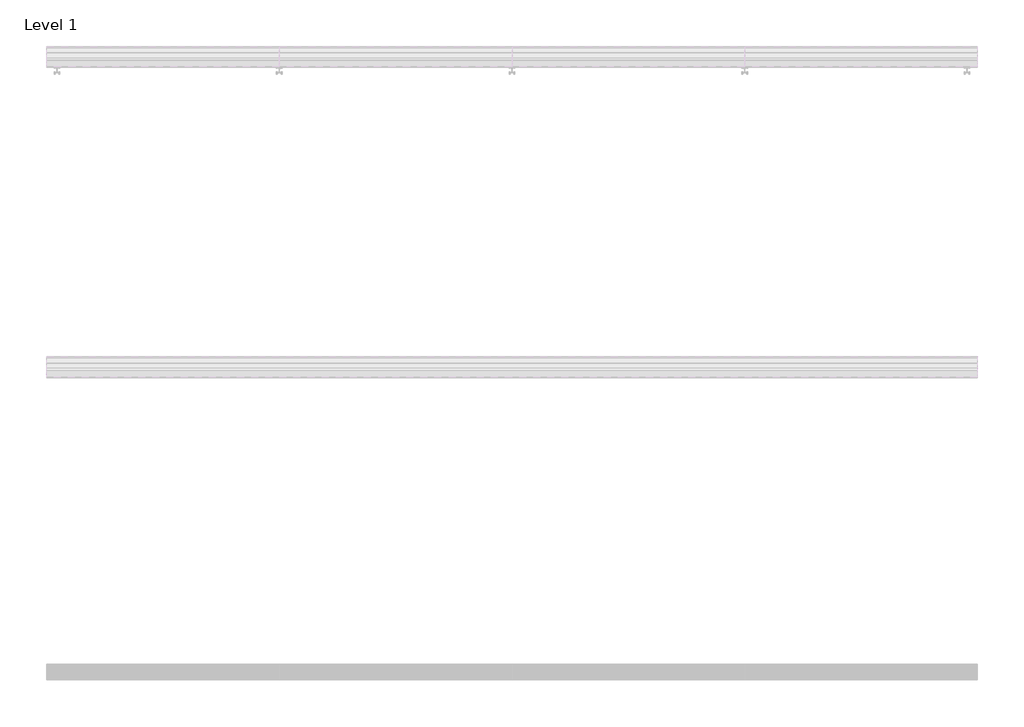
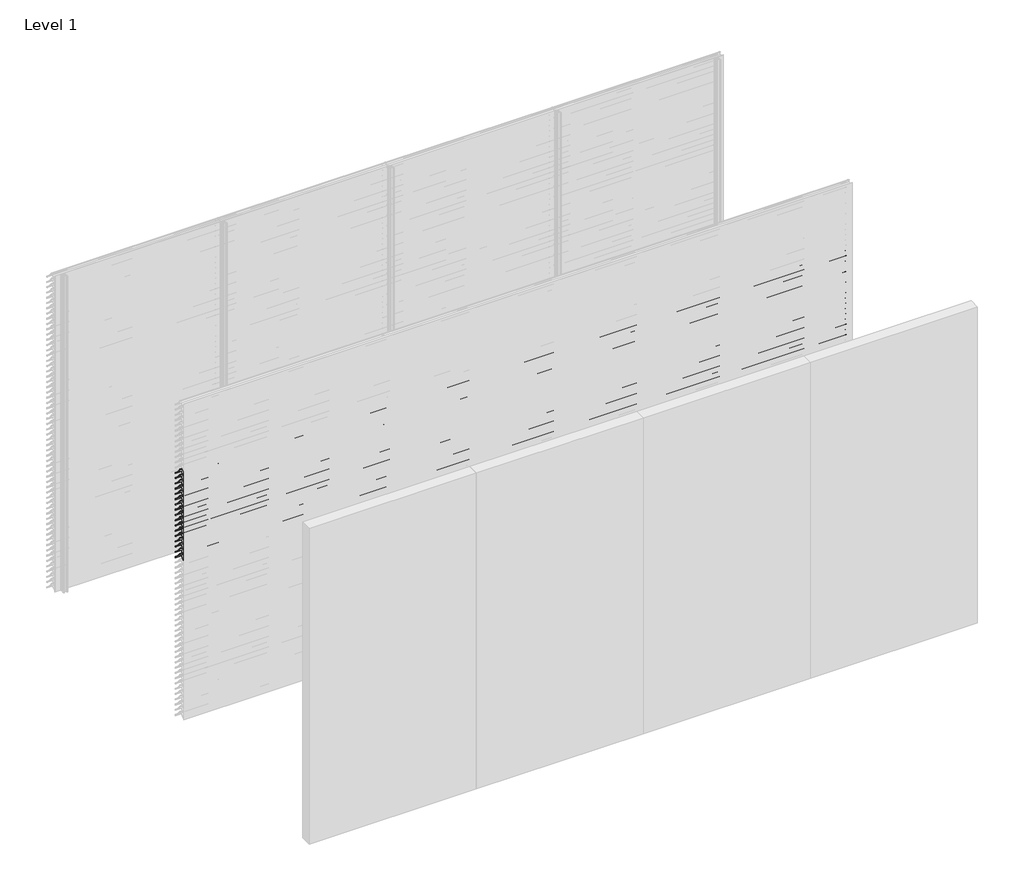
# One storey, part 38 of 173: 17 proxies.
"""IFC4 building model written with IfcOpenShell, lengths in millimetres."""

from ifc_helpers import new_model, si_unit, point, frame, frame_2d, origin, place, context, project, spatial, polyline, circle_curve, trimmed, segment, composite_curve, outline, extrude, element, save

model = new_model("IFC4")

# Units and contexts
model_context = context("Model", 3, world=origin())
ifc_project = project(units=[si_unit("LENGTHUNIT", "METRE", prefix="MILLI")], contexts=[model_context])

# Site, building, storey
site = spatial("IfcSite", under=ifc_project)
building = spatial("IfcBuilding", under=site)
storey = spatial("IfcBuildingStorey", under=building, Name="Level 1", Elevation=0.0)

# Proxies
placement = place(None, origin())
element("IfcBuildingElementProxy", 1, Name="Wall Sweeps", at=placement, inside=storey, context=model_context, shape_type="SweptSolid", body=[
    extrude(outline(composite_curve([segment(polyline([(-43998.0, 2309.1474905), (-43998.0, 2311.6227417)]), True, "CONTINUOUS"), segment(trimmed(circle_curve(frame_2d((-43951.2682172, 2266.2200208)), 65.1557103), [point((-43998.0, 2311.6227417))], [point((-43954.4014323, 2331.3003524))], False, "CARTESIAN"), True, "CONTINUOUS"), segment(polyline([(-43954.4014323, 2331.3003524), (-43934.8315836, 2331.3003524)]), True, "CONTINUOUS"), segment(trimmed(circle_curve(frame_2d((-43732.7329489, 2478.5533172)), 250.0545817), [point((-43934.8315836, 2331.3003524))], [point((-43941.4452143, 2340.8344583))], False, "CARTESIAN"), True, "CONTINUOUS"), segment(trimmed(circle_curve(frame_2d((-43953.2981792, 2335.1737835)), 13.1352966), [point((-43941.4452143, 2340.8344583))], [point((-43953.8171475, 2348.298824))], True, "CARTESIAN"), True, "CONTINUOUS"), segment(polyline([(-43953.8171475, 2348.298824), (-43953.8171475, 2350.0)]), True, "CONTINUOUS"), segment(trimmed(circle_curve(frame_2d((-43953.2981792, 2335.1737835)), 14.8352966), [point((-43953.8171475, 2350.0))], [point((-43939.9637661, 2341.6760487))], False, "CARTESIAN"), True, "CONTINUOUS"), segment(trimmed(circle_curve(frame_2d((-43732.7329489, 2478.5533172)), 248.3545817), [point((-43939.9637661, 2341.6760487))], [point((-43873.8787895, 2274.2059416))], True, "CARTESIAN"), True, "CONTINUOUS"), segment(trimmed(circle_curve(frame_2d((-43883.8147537, 2261.6649442)), 16.0), [point((-43873.8787895, 2274.2059416))], [point((-43867.8648347, 2260.4))], False, "CARTESIAN"), True, "CONTINUOUS"), segment(polyline([(-43867.8648347, 2260.4), (-43869.6712069, 2260.4)]), True, "CONTINUOUS"), segment(trimmed(circle_curve(frame_2d((-43883.8147537, 2261.6649442)), 14.2), [point((-43869.6712069, 2260.4))], [point((-43874.9518628, 2272.7594998))], True, "CARTESIAN"), True, "CONTINUOUS"), segment(trimmed(circle_curve(frame_2d((-43732.7329489, 2478.5533172)), 250.1545817), [point((-43874.9518628, 2272.7594998))], [point((-43933.7064024, 2329.6003524))], False, "CARTESIAN"), True, "CONTINUOUS"), segment(polyline([(-43933.7064024, 2329.6003524), (-43954.3602632, 2329.6003524)]), True, "CONTINUOUS"), segment(trimmed(circle_curve(frame_2d((-43951.2682172, 2266.2200208)), 63.4557103), [point((-43954.3602632, 2329.6003524))], [point((-43998.0, 2309.1474905))], True, "CARTESIAN"), True, "CONTINUOUS")], self_intersect=False)), frame((0.0, 0.0, 0.0), z_axis=(1.0, 0.0, 0.0), x_axis=(0.0, 1.0, 0.0)), (0.0, 0.0, 1.0), 6000.0),
])
element("IfcBuildingElementProxy", 2, Name="Wall Sweeps", at=placement, inside=storey, context=model_context, shape_type="SweptSolid", body=[
    extrude(outline(composite_curve([segment(polyline([(-43998.0, 2259.1474905), (-43998.0, 2261.6227417)]), True, "CONTINUOUS"), segment(trimmed(circle_curve(frame_2d((-43951.2682172, 2216.2200208)), 65.1557103), [point((-43998.0, 2261.6227417))], [point((-43954.4014323, 2281.3003524))], False, "CARTESIAN"), True, "CONTINUOUS"), segment(polyline([(-43954.4014323, 2281.3003524), (-43934.8315836, 2281.3003524)]), True, "CONTINUOUS"), segment(trimmed(circle_curve(frame_2d((-43732.7329489, 2428.5533172)), 250.0545817), [point((-43934.8315836, 2281.3003524))], [point((-43941.4452143, 2290.8344583))], False, "CARTESIAN"), True, "CONTINUOUS"), segment(trimmed(circle_curve(frame_2d((-43953.2981792, 2285.1737835)), 13.1352966), [point((-43941.4452143, 2290.8344583))], [point((-43953.8171475, 2298.298824))], True, "CARTESIAN"), True, "CONTINUOUS"), segment(polyline([(-43953.8171475, 2298.298824), (-43953.8171475, 2300.0)]), True, "CONTINUOUS"), segment(trimmed(circle_curve(frame_2d((-43953.2981792, 2285.1737835)), 14.8352966), [point((-43953.8171475, 2300.0))], [point((-43939.9637661, 2291.6760487))], False, "CARTESIAN"), True, "CONTINUOUS"), segment(trimmed(circle_curve(frame_2d((-43732.7329489, 2428.5533172)), 248.3545817), [point((-43939.9637661, 2291.6760487))], [point((-43873.8787895, 2224.2059416))], True, "CARTESIAN"), True, "CONTINUOUS"), segment(trimmed(circle_curve(frame_2d((-43883.8147537, 2211.6649442)), 16.0), [point((-43873.8787895, 2224.2059416))], [point((-43867.8648347, 2210.4))], False, "CARTESIAN"), True, "CONTINUOUS"), segment(polyline([(-43867.8648347, 2210.4), (-43869.6712069, 2210.4)]), True, "CONTINUOUS"), segment(trimmed(circle_curve(frame_2d((-43883.8147537, 2211.6649442)), 14.2), [point((-43869.6712069, 2210.4))], [point((-43874.9518628, 2222.7594998))], True, "CARTESIAN"), True, "CONTINUOUS"), segment(trimmed(circle_curve(frame_2d((-43732.7329489, 2428.5533172)), 250.1545817), [point((-43874.9518628, 2222.7594998))], [point((-43933.7064024, 2279.6003524))], False, "CARTESIAN"), True, "CONTINUOUS"), segment(polyline([(-43933.7064024, 2279.6003524), (-43954.3602632, 2279.6003524)]), True, "CONTINUOUS"), segment(trimmed(circle_curve(frame_2d((-43951.2682172, 2216.2200208)), 63.4557103), [point((-43954.3602632, 2279.6003524))], [point((-43998.0, 2259.1474905))], True, "CARTESIAN"), True, "CONTINUOUS")], self_intersect=False)), frame((0.0, 0.0, 0.0), z_axis=(1.0, 0.0, 0.0), x_axis=(0.0, 1.0, 0.0)), (0.0, 0.0, 1.0), 6000.0),
])
element("IfcBuildingElementProxy", 3, Name="Wall Sweeps", at=placement, inside=storey, context=model_context, shape_type="SweptSolid", body=[
    extrude(outline(composite_curve([segment(polyline([(-43998.0, 2209.1474905), (-43998.0, 2211.6227417)]), True, "CONTINUOUS"), segment(trimmed(circle_curve(frame_2d((-43951.2682172, 2166.2200208)), 65.1557103), [point((-43998.0, 2211.6227417))], [point((-43954.4014323, 2231.3003524))], False, "CARTESIAN"), True, "CONTINUOUS"), segment(polyline([(-43954.4014323, 2231.3003524), (-43934.8315836, 2231.3003524)]), True, "CONTINUOUS"), segment(trimmed(circle_curve(frame_2d((-43732.7329489, 2378.5533172)), 250.0545817), [point((-43934.8315836, 2231.3003524))], [point((-43941.4452143, 2240.8344583))], False, "CARTESIAN"), True, "CONTINUOUS"), segment(trimmed(circle_curve(frame_2d((-43953.2981792, 2235.1737835)), 13.1352966), [point((-43941.4452143, 2240.8344583))], [point((-43953.8171475, 2248.298824))], True, "CARTESIAN"), True, "CONTINUOUS"), segment(polyline([(-43953.8171475, 2248.298824), (-43953.8171475, 2250.0)]), True, "CONTINUOUS"), segment(trimmed(circle_curve(frame_2d((-43953.2981792, 2235.1737835)), 14.8352966), [point((-43953.8171475, 2250.0))], [point((-43939.9637661, 2241.6760487))], False, "CARTESIAN"), True, "CONTINUOUS"), segment(trimmed(circle_curve(frame_2d((-43732.7329489, 2378.5533172)), 248.3545817), [point((-43939.9637661, 2241.6760487))], [point((-43873.8787895, 2174.2059416))], True, "CARTESIAN"), True, "CONTINUOUS"), segment(trimmed(circle_curve(frame_2d((-43883.8147537, 2161.6649442)), 16.0), [point((-43873.8787895, 2174.2059416))], [point((-43867.8648347, 2160.4))], False, "CARTESIAN"), True, "CONTINUOUS"), segment(polyline([(-43867.8648347, 2160.4), (-43869.6712069, 2160.4)]), True, "CONTINUOUS"), segment(trimmed(circle_curve(frame_2d((-43883.8147537, 2161.6649442)), 14.2), [point((-43869.6712069, 2160.4))], [point((-43874.9518628, 2172.7594998))], True, "CARTESIAN"), True, "CONTINUOUS"), segment(trimmed(circle_curve(frame_2d((-43732.7329489, 2378.5533172)), 250.1545817), [point((-43874.9518628, 2172.7594998))], [point((-43933.7064024, 2229.6003524))], False, "CARTESIAN"), True, "CONTINUOUS"), segment(polyline([(-43933.7064024, 2229.6003524), (-43954.3602632, 2229.6003524)]), True, "CONTINUOUS"), segment(trimmed(circle_curve(frame_2d((-43951.2682172, 2166.2200208)), 63.4557103), [point((-43954.3602632, 2229.6003524))], [point((-43998.0, 2209.1474905))], True, "CARTESIAN"), True, "CONTINUOUS")], self_intersect=False)), frame((0.0, 0.0, 0.0), z_axis=(1.0, 0.0, 0.0), x_axis=(0.0, 1.0, 0.0)), (0.0, 0.0, 1.0), 6000.0),
])
element("IfcBuildingElementProxy", 4, Name="Wall Sweeps", at=placement, inside=storey, context=model_context, shape_type="SweptSolid", body=[
    extrude(outline(composite_curve([segment(polyline([(-43998.0, 2159.1474905), (-43998.0, 2161.6227417)]), True, "CONTINUOUS"), segment(trimmed(circle_curve(frame_2d((-43951.2682172, 2116.2200208)), 65.1557103), [point((-43998.0, 2161.6227417))], [point((-43954.4014323, 2181.3003524))], False, "CARTESIAN"), True, "CONTINUOUS"), segment(polyline([(-43954.4014323, 2181.3003524), (-43934.8315836, 2181.3003524)]), True, "CONTINUOUS"), segment(trimmed(circle_curve(frame_2d((-43732.7329489, 2328.5533172)), 250.0545817), [point((-43934.8315836, 2181.3003524))], [point((-43941.4452143, 2190.8344583))], False, "CARTESIAN"), True, "CONTINUOUS"), segment(trimmed(circle_curve(frame_2d((-43953.2981792, 2185.1737835)), 13.1352966), [point((-43941.4452143, 2190.8344583))], [point((-43953.8171475, 2198.298824))], True, "CARTESIAN"), True, "CONTINUOUS"), segment(polyline([(-43953.8171475, 2198.298824), (-43953.8171475, 2200.0)]), True, "CONTINUOUS"), segment(trimmed(circle_curve(frame_2d((-43953.2981792, 2185.1737835)), 14.8352966), [point((-43953.8171475, 2200.0))], [point((-43939.9637661, 2191.6760487))], False, "CARTESIAN"), True, "CONTINUOUS"), segment(trimmed(circle_curve(frame_2d((-43732.7329489, 2328.5533172)), 248.3545817), [point((-43939.9637661, 2191.6760487))], [point((-43873.8787895, 2124.2059416))], True, "CARTESIAN"), True, "CONTINUOUS"), segment(trimmed(circle_curve(frame_2d((-43883.8147537, 2111.6649442)), 16.0), [point((-43873.8787895, 2124.2059416))], [point((-43867.8648347, 2110.4))], False, "CARTESIAN"), True, "CONTINUOUS"), segment(polyline([(-43867.8648347, 2110.4), (-43869.6712069, 2110.4)]), True, "CONTINUOUS"), segment(trimmed(circle_curve(frame_2d((-43883.8147537, 2111.6649442)), 14.2), [point((-43869.6712069, 2110.4))], [point((-43874.9518628, 2122.7594998))], True, "CARTESIAN"), True, "CONTINUOUS"), segment(trimmed(circle_curve(frame_2d((-43732.7329489, 2328.5533172)), 250.1545817), [point((-43874.9518628, 2122.7594998))], [point((-43933.7064024, 2179.6003524))], False, "CARTESIAN"), True, "CONTINUOUS"), segment(polyline([(-43933.7064024, 2179.6003524), (-43954.3602632, 2179.6003524)]), True, "CONTINUOUS"), segment(trimmed(circle_curve(frame_2d((-43951.2682172, 2116.2200208)), 63.4557103), [point((-43954.3602632, 2179.6003524))], [point((-43998.0, 2159.1474905))], True, "CARTESIAN"), True, "CONTINUOUS")], self_intersect=False)), frame((0.0, 0.0, 0.0), z_axis=(1.0, 0.0, 0.0), x_axis=(0.0, 1.0, 0.0)), (0.0, 0.0, 1.0), 6000.0),
])
element("IfcBuildingElementProxy", 5, Name="Wall Sweeps", at=placement, inside=storey, context=model_context, shape_type="SweptSolid", body=[
    extrude(outline(composite_curve([segment(polyline([(-43998.0, 2109.1474905), (-43998.0, 2111.6227417)]), True, "CONTINUOUS"), segment(trimmed(circle_curve(frame_2d((-43951.2682172, 2066.2200208)), 65.1557103), [point((-43998.0, 2111.6227417))], [point((-43954.4014323, 2131.3003524))], False, "CARTESIAN"), True, "CONTINUOUS"), segment(polyline([(-43954.4014323, 2131.3003524), (-43934.8315836, 2131.3003524)]), True, "CONTINUOUS"), segment(trimmed(circle_curve(frame_2d((-43732.7329489, 2278.5533172)), 250.0545817), [point((-43934.8315836, 2131.3003524))], [point((-43941.4452143, 2140.8344583))], False, "CARTESIAN"), True, "CONTINUOUS"), segment(trimmed(circle_curve(frame_2d((-43953.2981792, 2135.1737835)), 13.1352966), [point((-43941.4452143, 2140.8344583))], [point((-43953.8171475, 2148.298824))], True, "CARTESIAN"), True, "CONTINUOUS"), segment(polyline([(-43953.8171475, 2148.298824), (-43953.8171475, 2150.0)]), True, "CONTINUOUS"), segment(trimmed(circle_curve(frame_2d((-43953.2981792, 2135.1737835)), 14.8352966), [point((-43953.8171475, 2150.0))], [point((-43939.9637661, 2141.6760487))], False, "CARTESIAN"), True, "CONTINUOUS"), segment(trimmed(circle_curve(frame_2d((-43732.7329489, 2278.5533172)), 248.3545817), [point((-43939.9637661, 2141.6760487))], [point((-43873.8787895, 2074.2059416))], True, "CARTESIAN"), True, "CONTINUOUS"), segment(trimmed(circle_curve(frame_2d((-43883.8147537, 2061.6649442)), 16.0), [point((-43873.8787895, 2074.2059416))], [point((-43867.8648347, 2060.4))], False, "CARTESIAN"), True, "CONTINUOUS"), segment(polyline([(-43867.8648347, 2060.4), (-43869.6712069, 2060.4)]), True, "CONTINUOUS"), segment(trimmed(circle_curve(frame_2d((-43883.8147537, 2061.6649442)), 14.2), [point((-43869.6712069, 2060.4))], [point((-43874.9518628, 2072.7594998))], True, "CARTESIAN"), True, "CONTINUOUS"), segment(trimmed(circle_curve(frame_2d((-43732.7329489, 2278.5533172)), 250.1545817), [point((-43874.9518628, 2072.7594998))], [point((-43933.7064024, 2129.6003524))], False, "CARTESIAN"), True, "CONTINUOUS"), segment(polyline([(-43933.7064024, 2129.6003524), (-43954.3602632, 2129.6003524)]), True, "CONTINUOUS"), segment(trimmed(circle_curve(frame_2d((-43951.2682172, 2066.2200208)), 63.4557103), [point((-43954.3602632, 2129.6003524))], [point((-43998.0, 2109.1474905))], True, "CARTESIAN"), True, "CONTINUOUS")], self_intersect=False)), frame((0.0, 0.0, 0.0), z_axis=(1.0, 0.0, 0.0), x_axis=(0.0, 1.0, 0.0)), (0.0, 0.0, 1.0), 6000.0),
])
element("IfcBuildingElementProxy", 6, Name="Wall Sweeps", at=placement, inside=storey, context=model_context, shape_type="SweptSolid", body=[
    extrude(outline(composite_curve([segment(polyline([(-43998.0, 2059.1474905), (-43998.0, 2061.6227417)]), True, "CONTINUOUS"), segment(trimmed(circle_curve(frame_2d((-43951.2682172, 2016.2200208)), 65.1557103), [point((-43998.0, 2061.6227417))], [point((-43954.4014323, 2081.3003524))], False, "CARTESIAN"), True, "CONTINUOUS"), segment(polyline([(-43954.4014323, 2081.3003524), (-43934.8315836, 2081.3003524)]), True, "CONTINUOUS"), segment(trimmed(circle_curve(frame_2d((-43732.7329489, 2228.5533172)), 250.0545817), [point((-43934.8315836, 2081.3003524))], [point((-43941.4452143, 2090.8344583))], False, "CARTESIAN"), True, "CONTINUOUS"), segment(trimmed(circle_curve(frame_2d((-43953.2981792, 2085.1737835)), 13.1352966), [point((-43941.4452143, 2090.8344583))], [point((-43953.8171475, 2098.298824))], True, "CARTESIAN"), True, "CONTINUOUS"), segment(polyline([(-43953.8171475, 2098.298824), (-43953.8171475, 2100.0)]), True, "CONTINUOUS"), segment(trimmed(circle_curve(frame_2d((-43953.2981792, 2085.1737835)), 14.8352966), [point((-43953.8171475, 2100.0))], [point((-43939.9637661, 2091.6760487))], False, "CARTESIAN"), True, "CONTINUOUS"), segment(trimmed(circle_curve(frame_2d((-43732.7329489, 2228.5533172)), 248.3545817), [point((-43939.9637661, 2091.6760487))], [point((-43873.8787895, 2024.2059416))], True, "CARTESIAN"), True, "CONTINUOUS"), segment(trimmed(circle_curve(frame_2d((-43883.8147537, 2011.6649442)), 16.0), [point((-43873.8787895, 2024.2059416))], [point((-43867.8648347, 2010.4))], False, "CARTESIAN"), True, "CONTINUOUS"), segment(polyline([(-43867.8648347, 2010.4), (-43869.6712069, 2010.4)]), True, "CONTINUOUS"), segment(trimmed(circle_curve(frame_2d((-43883.8147537, 2011.6649442)), 14.2), [point((-43869.6712069, 2010.4))], [point((-43874.9518628, 2022.7594998))], True, "CARTESIAN"), True, "CONTINUOUS"), segment(trimmed(circle_curve(frame_2d((-43732.7329489, 2228.5533172)), 250.1545817), [point((-43874.9518628, 2022.7594998))], [point((-43933.7064024, 2079.6003524))], False, "CARTESIAN"), True, "CONTINUOUS"), segment(polyline([(-43933.7064024, 2079.6003524), (-43954.3602632, 2079.6003524)]), True, "CONTINUOUS"), segment(trimmed(circle_curve(frame_2d((-43951.2682172, 2016.2200208)), 63.4557103), [point((-43954.3602632, 2079.6003524))], [point((-43998.0, 2059.1474905))], True, "CARTESIAN"), True, "CONTINUOUS")], self_intersect=False)), frame((0.0, 0.0, 0.0), z_axis=(1.0, 0.0, 0.0), x_axis=(0.0, 1.0, 0.0)), (0.0, 0.0, 1.0), 6000.0),
])
element("IfcBuildingElementProxy", 7, Name="Wall Sweeps", at=placement, inside=storey, context=model_context, shape_type="SweptSolid", body=[
    extrude(outline(composite_curve([segment(polyline([(-43998.0, 2009.1474905), (-43998.0, 2011.6227417)]), True, "CONTINUOUS"), segment(trimmed(circle_curve(frame_2d((-43951.2682172, 1966.2200208)), 65.1557103), [point((-43998.0, 2011.6227417))], [point((-43954.4014323, 2031.3003524))], False, "CARTESIAN"), True, "CONTINUOUS"), segment(polyline([(-43954.4014323, 2031.3003524), (-43934.8315836, 2031.3003524)]), True, "CONTINUOUS"), segment(trimmed(circle_curve(frame_2d((-43732.7329489, 2178.5533172)), 250.0545817), [point((-43934.8315836, 2031.3003524))], [point((-43941.4452143, 2040.8344583))], False, "CARTESIAN"), True, "CONTINUOUS"), segment(trimmed(circle_curve(frame_2d((-43953.2981792, 2035.1737835)), 13.1352966), [point((-43941.4452143, 2040.8344583))], [point((-43953.8171475, 2048.298824))], True, "CARTESIAN"), True, "CONTINUOUS"), segment(polyline([(-43953.8171475, 2048.298824), (-43953.8171475, 2050.0)]), True, "CONTINUOUS"), segment(trimmed(circle_curve(frame_2d((-43953.2981792, 2035.1737835)), 14.8352966), [point((-43953.8171475, 2050.0))], [point((-43939.9637661, 2041.6760487))], False, "CARTESIAN"), True, "CONTINUOUS"), segment(trimmed(circle_curve(frame_2d((-43732.7329489, 2178.5533172)), 248.3545817), [point((-43939.9637661, 2041.6760487))], [point((-43873.8787895, 1974.2059416))], True, "CARTESIAN"), True, "CONTINUOUS"), segment(trimmed(circle_curve(frame_2d((-43883.8147537, 1961.6649442)), 16.0), [point((-43873.8787895, 1974.2059416))], [point((-43867.8648347, 1960.4))], False, "CARTESIAN"), True, "CONTINUOUS"), segment(polyline([(-43867.8648347, 1960.4), (-43869.6712069, 1960.4)]), True, "CONTINUOUS"), segment(trimmed(circle_curve(frame_2d((-43883.8147537, 1961.6649442)), 14.2), [point((-43869.6712069, 1960.4))], [point((-43874.9518628, 1972.7594998))], True, "CARTESIAN"), True, "CONTINUOUS"), segment(trimmed(circle_curve(frame_2d((-43732.7329489, 2178.5533172)), 250.1545817), [point((-43874.9518628, 1972.7594998))], [point((-43933.7064024, 2029.6003524))], False, "CARTESIAN"), True, "CONTINUOUS"), segment(polyline([(-43933.7064024, 2029.6003524), (-43954.3602632, 2029.6003524)]), True, "CONTINUOUS"), segment(trimmed(circle_curve(frame_2d((-43951.2682172, 1966.2200208)), 63.4557103), [point((-43954.3602632, 2029.6003524))], [point((-43998.0, 2009.1474905))], True, "CARTESIAN"), True, "CONTINUOUS")], self_intersect=False)), frame((0.0, 0.0, 0.0), z_axis=(1.0, 0.0, 0.0), x_axis=(0.0, 1.0, 0.0)), (0.0, 0.0, 1.0), 6000.0),
])
element("IfcBuildingElementProxy", 8, Name="Wall Sweeps", at=placement, inside=storey, context=model_context, shape_type="SweptSolid", body=[
    extrude(outline(composite_curve([segment(polyline([(-43998.0, 1959.1474905), (-43998.0, 1961.6227417)]), True, "CONTINUOUS"), segment(trimmed(circle_curve(frame_2d((-43951.2682172, 1916.2200208)), 65.1557103), [point((-43998.0, 1961.6227417))], [point((-43954.4014323, 1981.3003524))], False, "CARTESIAN"), True, "CONTINUOUS"), segment(polyline([(-43954.4014323, 1981.3003524), (-43934.8315836, 1981.3003524)]), True, "CONTINUOUS"), segment(trimmed(circle_curve(frame_2d((-43732.7329489, 2128.5533172)), 250.0545817), [point((-43934.8315836, 1981.3003524))], [point((-43941.4452143, 1990.8344583))], False, "CARTESIAN"), True, "CONTINUOUS"), segment(trimmed(circle_curve(frame_2d((-43953.2981792, 1985.1737835)), 13.1352966), [point((-43941.4452143, 1990.8344583))], [point((-43953.8171475, 1998.298824))], True, "CARTESIAN"), True, "CONTINUOUS"), segment(polyline([(-43953.8171475, 1998.298824), (-43953.8171475, 2000.0)]), True, "CONTINUOUS"), segment(trimmed(circle_curve(frame_2d((-43953.2981792, 1985.1737835)), 14.8352966), [point((-43953.8171475, 2000.0))], [point((-43939.9637661, 1991.6760487))], False, "CARTESIAN"), True, "CONTINUOUS"), segment(trimmed(circle_curve(frame_2d((-43732.7329489, 2128.5533172)), 248.3545817), [point((-43939.9637661, 1991.6760487))], [point((-43873.8787895, 1924.2059416))], True, "CARTESIAN"), True, "CONTINUOUS"), segment(trimmed(circle_curve(frame_2d((-43883.8147537, 1911.6649442)), 16.0), [point((-43873.8787895, 1924.2059416))], [point((-43867.8648347, 1910.4))], False, "CARTESIAN"), True, "CONTINUOUS"), segment(polyline([(-43867.8648347, 1910.4), (-43869.6712069, 1910.4)]), True, "CONTINUOUS"), segment(trimmed(circle_curve(frame_2d((-43883.8147537, 1911.6649442)), 14.2), [point((-43869.6712069, 1910.4))], [point((-43874.9518628, 1922.7594998))], True, "CARTESIAN"), True, "CONTINUOUS"), segment(trimmed(circle_curve(frame_2d((-43732.7329489, 2128.5533172)), 250.1545817), [point((-43874.9518628, 1922.7594998))], [point((-43933.7064024, 1979.6003524))], False, "CARTESIAN"), True, "CONTINUOUS"), segment(polyline([(-43933.7064024, 1979.6003524), (-43954.3602632, 1979.6003524)]), True, "CONTINUOUS"), segment(trimmed(circle_curve(frame_2d((-43951.2682172, 1916.2200208)), 63.4557103), [point((-43954.3602632, 1979.6003524))], [point((-43998.0, 1959.1474905))], True, "CARTESIAN"), True, "CONTINUOUS")], self_intersect=False)), frame((0.0, 0.0, 0.0), z_axis=(1.0, 0.0, 0.0), x_axis=(0.0, 1.0, 0.0)), (0.0, 0.0, 1.0), 6000.0),
])
element("IfcBuildingElementProxy", 9, Name="Wall Sweeps", at=placement, inside=storey, context=model_context, shape_type="SweptSolid", body=[
    extrude(outline(composite_curve([segment(polyline([(-43998.0, 1909.1474905), (-43998.0, 1911.6227417)]), True, "CONTINUOUS"), segment(trimmed(circle_curve(frame_2d((-43951.2682172, 1866.2200208)), 65.1557103), [point((-43998.0, 1911.6227417))], [point((-43954.4014323, 1931.3003524))], False, "CARTESIAN"), True, "CONTINUOUS"), segment(polyline([(-43954.4014323, 1931.3003524), (-43934.8315836, 1931.3003524)]), True, "CONTINUOUS"), segment(trimmed(circle_curve(frame_2d((-43732.7329489, 2078.5533172)), 250.0545817), [point((-43934.8315836, 1931.3003524))], [point((-43941.4452143, 1940.8344583))], False, "CARTESIAN"), True, "CONTINUOUS"), segment(trimmed(circle_curve(frame_2d((-43953.2981792, 1935.1737835)), 13.1352966), [point((-43941.4452143, 1940.8344583))], [point((-43953.8171475, 1948.298824))], True, "CARTESIAN"), True, "CONTINUOUS"), segment(polyline([(-43953.8171475, 1948.298824), (-43953.8171475, 1950.0)]), True, "CONTINUOUS"), segment(trimmed(circle_curve(frame_2d((-43953.2981792, 1935.1737835)), 14.8352966), [point((-43953.8171475, 1950.0))], [point((-43939.9637661, 1941.6760487))], False, "CARTESIAN"), True, "CONTINUOUS"), segment(trimmed(circle_curve(frame_2d((-43732.7329489, 2078.5533172)), 248.3545817), [point((-43939.9637661, 1941.6760487))], [point((-43873.8787895, 1874.2059416))], True, "CARTESIAN"), True, "CONTINUOUS"), segment(trimmed(circle_curve(frame_2d((-43883.8147537, 1861.6649442)), 16.0), [point((-43873.8787895, 1874.2059416))], [point((-43867.8648347, 1860.4))], False, "CARTESIAN"), True, "CONTINUOUS"), segment(polyline([(-43867.8648347, 1860.4), (-43869.6712069, 1860.4)]), True, "CONTINUOUS"), segment(trimmed(circle_curve(frame_2d((-43883.8147537, 1861.6649442)), 14.2), [point((-43869.6712069, 1860.4))], [point((-43874.9518628, 1872.7594998))], True, "CARTESIAN"), True, "CONTINUOUS"), segment(trimmed(circle_curve(frame_2d((-43732.7329489, 2078.5533172)), 250.1545817), [point((-43874.9518628, 1872.7594998))], [point((-43933.7064024, 1929.6003524))], False, "CARTESIAN"), True, "CONTINUOUS"), segment(polyline([(-43933.7064024, 1929.6003524), (-43954.3602632, 1929.6003524)]), True, "CONTINUOUS"), segment(trimmed(circle_curve(frame_2d((-43951.2682172, 1866.2200208)), 63.4557103), [point((-43954.3602632, 1929.6003524))], [point((-43998.0, 1909.1474905))], True, "CARTESIAN"), True, "CONTINUOUS")], self_intersect=False)), frame((0.0, 0.0, 0.0), z_axis=(1.0, 0.0, 0.0), x_axis=(0.0, 1.0, 0.0)), (0.0, 0.0, 1.0), 6000.0),
])
element("IfcBuildingElementProxy", 10, Name="Wall Sweeps", at=placement, inside=storey, context=model_context, shape_type="SweptSolid", body=[
    extrude(outline(composite_curve([segment(polyline([(-43998.0, 1859.1474905), (-43998.0, 1861.6227417)]), True, "CONTINUOUS"), segment(trimmed(circle_curve(frame_2d((-43951.2682172, 1816.2200208)), 65.1557103), [point((-43998.0, 1861.6227417))], [point((-43954.4014323, 1881.3003524))], False, "CARTESIAN"), True, "CONTINUOUS"), segment(polyline([(-43954.4014323, 1881.3003524), (-43934.8315836, 1881.3003524)]), True, "CONTINUOUS"), segment(trimmed(circle_curve(frame_2d((-43732.7329489, 2028.5533172)), 250.0545817), [point((-43934.8315836, 1881.3003524))], [point((-43941.4452143, 1890.8344583))], False, "CARTESIAN"), True, "CONTINUOUS"), segment(trimmed(circle_curve(frame_2d((-43953.2981792, 1885.1737835)), 13.1352966), [point((-43941.4452143, 1890.8344583))], [point((-43953.8171475, 1898.298824))], True, "CARTESIAN"), True, "CONTINUOUS"), segment(polyline([(-43953.8171475, 1898.298824), (-43953.8171475, 1900.0)]), True, "CONTINUOUS"), segment(trimmed(circle_curve(frame_2d((-43953.2981792, 1885.1737835)), 14.8352966), [point((-43953.8171475, 1900.0))], [point((-43939.9637661, 1891.6760487))], False, "CARTESIAN"), True, "CONTINUOUS"), segment(trimmed(circle_curve(frame_2d((-43732.7329489, 2028.5533172)), 248.3545817), [point((-43939.9637661, 1891.6760487))], [point((-43873.8787895, 1824.2059416))], True, "CARTESIAN"), True, "CONTINUOUS"), segment(trimmed(circle_curve(frame_2d((-43883.8147537, 1811.6649442)), 16.0), [point((-43873.8787895, 1824.2059416))], [point((-43867.8648347, 1810.4))], False, "CARTESIAN"), True, "CONTINUOUS"), segment(polyline([(-43867.8648347, 1810.4), (-43869.6712069, 1810.4)]), True, "CONTINUOUS"), segment(trimmed(circle_curve(frame_2d((-43883.8147537, 1811.6649442)), 14.2), [point((-43869.6712069, 1810.4))], [point((-43874.9518628, 1822.7594998))], True, "CARTESIAN"), True, "CONTINUOUS"), segment(trimmed(circle_curve(frame_2d((-43732.7329489, 2028.5533172)), 250.1545817), [point((-43874.9518628, 1822.7594998))], [point((-43933.7064024, 1879.6003524))], False, "CARTESIAN"), True, "CONTINUOUS"), segment(polyline([(-43933.7064024, 1879.6003524), (-43954.3602632, 1879.6003524)]), True, "CONTINUOUS"), segment(trimmed(circle_curve(frame_2d((-43951.2682172, 1816.2200208)), 63.4557103), [point((-43954.3602632, 1879.6003524))], [point((-43998.0, 1859.1474905))], True, "CARTESIAN"), True, "CONTINUOUS")], self_intersect=False)), frame((0.0, 0.0, 0.0), z_axis=(1.0, 0.0, 0.0), x_axis=(0.0, 1.0, 0.0)), (0.0, 0.0, 1.0), 6000.0),
])
element("IfcBuildingElementProxy", 11, Name="Wall Sweeps", at=placement, inside=storey, context=model_context, shape_type="SweptSolid", body=[
    extrude(outline(composite_curve([segment(polyline([(-43998.0, 1809.1474905), (-43998.0, 1811.6227417)]), True, "CONTINUOUS"), segment(trimmed(circle_curve(frame_2d((-43951.2682172, 1766.2200208)), 65.1557103), [point((-43998.0, 1811.6227417))], [point((-43954.4014323, 1831.3003524))], False, "CARTESIAN"), True, "CONTINUOUS"), segment(polyline([(-43954.4014323, 1831.3003524), (-43934.8315836, 1831.3003524)]), True, "CONTINUOUS"), segment(trimmed(circle_curve(frame_2d((-43732.7329489, 1978.5533172)), 250.0545817), [point((-43934.8315836, 1831.3003524))], [point((-43941.4452143, 1840.8344583))], False, "CARTESIAN"), True, "CONTINUOUS"), segment(trimmed(circle_curve(frame_2d((-43953.2981792, 1835.1737835)), 13.1352966), [point((-43941.4452143, 1840.8344583))], [point((-43953.8171475, 1848.298824))], True, "CARTESIAN"), True, "CONTINUOUS"), segment(polyline([(-43953.8171475, 1848.298824), (-43953.8171475, 1850.0)]), True, "CONTINUOUS"), segment(trimmed(circle_curve(frame_2d((-43953.2981792, 1835.1737835)), 14.8352966), [point((-43953.8171475, 1850.0))], [point((-43939.9637661, 1841.6760487))], False, "CARTESIAN"), True, "CONTINUOUS"), segment(trimmed(circle_curve(frame_2d((-43732.7329489, 1978.5533172)), 248.3545817), [point((-43939.9637661, 1841.6760487))], [point((-43873.8787895, 1774.2059416))], True, "CARTESIAN"), True, "CONTINUOUS"), segment(trimmed(circle_curve(frame_2d((-43883.8147537, 1761.6649442)), 16.0), [point((-43873.8787895, 1774.2059416))], [point((-43867.8648347, 1760.4))], False, "CARTESIAN"), True, "CONTINUOUS"), segment(polyline([(-43867.8648347, 1760.4), (-43869.6712069, 1760.4)]), True, "CONTINUOUS"), segment(trimmed(circle_curve(frame_2d((-43883.8147537, 1761.6649442)), 14.2), [point((-43869.6712069, 1760.4))], [point((-43874.9518628, 1772.7594998))], True, "CARTESIAN"), True, "CONTINUOUS"), segment(trimmed(circle_curve(frame_2d((-43732.7329489, 1978.5533172)), 250.1545817), [point((-43874.9518628, 1772.7594998))], [point((-43933.7064024, 1829.6003524))], False, "CARTESIAN"), True, "CONTINUOUS"), segment(polyline([(-43933.7064024, 1829.6003524), (-43954.3602632, 1829.6003524)]), True, "CONTINUOUS"), segment(trimmed(circle_curve(frame_2d((-43951.2682172, 1766.2200208)), 63.4557103), [point((-43954.3602632, 1829.6003524))], [point((-43998.0, 1809.1474905))], True, "CARTESIAN"), True, "CONTINUOUS")], self_intersect=False)), frame((0.0, 0.0, 0.0), z_axis=(1.0, 0.0, 0.0), x_axis=(0.0, 1.0, 0.0)), (0.0, 0.0, 1.0), 6000.0),
])
element("IfcBuildingElementProxy", 12, Name="Wall Sweeps", at=placement, inside=storey, context=model_context, shape_type="SweptSolid", body=[
    extrude(outline(composite_curve([segment(polyline([(-43998.0, 1759.1474905), (-43998.0, 1761.6227417)]), True, "CONTINUOUS"), segment(trimmed(circle_curve(frame_2d((-43951.2682172, 1716.2200208)), 65.1557103), [point((-43998.0, 1761.6227417))], [point((-43954.4014323, 1781.3003524))], False, "CARTESIAN"), True, "CONTINUOUS"), segment(polyline([(-43954.4014323, 1781.3003524), (-43934.8315836, 1781.3003524)]), True, "CONTINUOUS"), segment(trimmed(circle_curve(frame_2d((-43732.7329489, 1928.5533172)), 250.0545817), [point((-43934.8315836, 1781.3003524))], [point((-43941.4452143, 1790.8344583))], False, "CARTESIAN"), True, "CONTINUOUS"), segment(trimmed(circle_curve(frame_2d((-43953.2981792, 1785.1737835)), 13.1352966), [point((-43941.4452143, 1790.8344583))], [point((-43953.8171475, 1798.298824))], True, "CARTESIAN"), True, "CONTINUOUS"), segment(polyline([(-43953.8171475, 1798.298824), (-43953.8171475, 1800.0)]), True, "CONTINUOUS"), segment(trimmed(circle_curve(frame_2d((-43953.2981792, 1785.1737835)), 14.8352966), [point((-43953.8171475, 1800.0))], [point((-43939.9637661, 1791.6760487))], False, "CARTESIAN"), True, "CONTINUOUS"), segment(trimmed(circle_curve(frame_2d((-43732.7329489, 1928.5533172)), 248.3545817), [point((-43939.9637661, 1791.6760487))], [point((-43873.8787895, 1724.2059416))], True, "CARTESIAN"), True, "CONTINUOUS"), segment(trimmed(circle_curve(frame_2d((-43883.8147537, 1711.6649442)), 16.0), [point((-43873.8787895, 1724.2059416))], [point((-43867.8648347, 1710.4))], False, "CARTESIAN"), True, "CONTINUOUS"), segment(polyline([(-43867.8648347, 1710.4), (-43869.6712069, 1710.4)]), True, "CONTINUOUS"), segment(trimmed(circle_curve(frame_2d((-43883.8147537, 1711.6649442)), 14.2), [point((-43869.6712069, 1710.4))], [point((-43874.9518628, 1722.7594998))], True, "CARTESIAN"), True, "CONTINUOUS"), segment(trimmed(circle_curve(frame_2d((-43732.7329489, 1928.5533172)), 250.1545817), [point((-43874.9518628, 1722.7594998))], [point((-43933.7064024, 1779.6003524))], False, "CARTESIAN"), True, "CONTINUOUS"), segment(polyline([(-43933.7064024, 1779.6003524), (-43954.3602632, 1779.6003524)]), True, "CONTINUOUS"), segment(trimmed(circle_curve(frame_2d((-43951.2682172, 1716.2200208)), 63.4557103), [point((-43954.3602632, 1779.6003524))], [point((-43998.0, 1759.1474905))], True, "CARTESIAN"), True, "CONTINUOUS")], self_intersect=False)), frame((0.0, 0.0, 0.0), z_axis=(1.0, 0.0, 0.0), x_axis=(0.0, 1.0, 0.0)), (0.0, 0.0, 1.0), 6000.0),
])
element("IfcBuildingElementProxy", 13, Name="Wall Sweeps", at=placement, inside=storey, context=model_context, shape_type="SweptSolid", body=[
    extrude(outline(composite_curve([segment(polyline([(-43998.0, 1709.1474905), (-43998.0, 1711.6227417)]), True, "CONTINUOUS"), segment(trimmed(circle_curve(frame_2d((-43951.2682172, 1666.2200208)), 65.1557103), [point((-43998.0, 1711.6227417))], [point((-43954.4014323, 1731.3003524))], False, "CARTESIAN"), True, "CONTINUOUS"), segment(polyline([(-43954.4014323, 1731.3003524), (-43934.8315836, 1731.3003524)]), True, "CONTINUOUS"), segment(trimmed(circle_curve(frame_2d((-43732.7329489, 1878.5533172)), 250.0545817), [point((-43934.8315836, 1731.3003524))], [point((-43941.4452143, 1740.8344583))], False, "CARTESIAN"), True, "CONTINUOUS"), segment(trimmed(circle_curve(frame_2d((-43953.2981792, 1735.1737835)), 13.1352966), [point((-43941.4452143, 1740.8344583))], [point((-43953.8171475, 1748.298824))], True, "CARTESIAN"), True, "CONTINUOUS"), segment(polyline([(-43953.8171475, 1748.298824), (-43953.8171475, 1750.0)]), True, "CONTINUOUS"), segment(trimmed(circle_curve(frame_2d((-43953.2981792, 1735.1737835)), 14.8352966), [point((-43953.8171475, 1750.0))], [point((-43939.9637661, 1741.6760487))], False, "CARTESIAN"), True, "CONTINUOUS"), segment(trimmed(circle_curve(frame_2d((-43732.7329489, 1878.5533172)), 248.3545817), [point((-43939.9637661, 1741.6760487))], [point((-43873.8787895, 1674.2059416))], True, "CARTESIAN"), True, "CONTINUOUS"), segment(trimmed(circle_curve(frame_2d((-43883.8147537, 1661.6649442)), 16.0), [point((-43873.8787895, 1674.2059416))], [point((-43867.8648347, 1660.4))], False, "CARTESIAN"), True, "CONTINUOUS"), segment(polyline([(-43867.8648347, 1660.4), (-43869.6712069, 1660.4)]), True, "CONTINUOUS"), segment(trimmed(circle_curve(frame_2d((-43883.8147537, 1661.6649442)), 14.2), [point((-43869.6712069, 1660.4))], [point((-43874.9518628, 1672.7594998))], True, "CARTESIAN"), True, "CONTINUOUS"), segment(trimmed(circle_curve(frame_2d((-43732.7329489, 1878.5533172)), 250.1545817), [point((-43874.9518628, 1672.7594998))], [point((-43933.7064024, 1729.6003524))], False, "CARTESIAN"), True, "CONTINUOUS"), segment(polyline([(-43933.7064024, 1729.6003524), (-43954.3602632, 1729.6003524)]), True, "CONTINUOUS"), segment(trimmed(circle_curve(frame_2d((-43951.2682172, 1666.2200208)), 63.4557103), [point((-43954.3602632, 1729.6003524))], [point((-43998.0, 1709.1474905))], True, "CARTESIAN"), True, "CONTINUOUS")], self_intersect=False)), frame((0.0, 0.0, 0.0), z_axis=(1.0, 0.0, 0.0), x_axis=(0.0, 1.0, 0.0)), (0.0, 0.0, 1.0), 6000.0),
])
element("IfcBuildingElementProxy", 14, Name="Wall Sweeps", at=placement, inside=storey, context=model_context, shape_type="SweptSolid", body=[
    extrude(outline(composite_curve([segment(polyline([(-43998.0, 1659.1474905), (-43998.0, 1661.6227417)]), True, "CONTINUOUS"), segment(trimmed(circle_curve(frame_2d((-43951.2682172, 1616.2200208)), 65.1557103), [point((-43998.0, 1661.6227417))], [point((-43954.4014323, 1681.3003524))], False, "CARTESIAN"), True, "CONTINUOUS"), segment(polyline([(-43954.4014323, 1681.3003524), (-43934.8315836, 1681.3003524)]), True, "CONTINUOUS"), segment(trimmed(circle_curve(frame_2d((-43732.7329489, 1828.5533172)), 250.0545817), [point((-43934.8315836, 1681.3003524))], [point((-43941.4452143, 1690.8344583))], False, "CARTESIAN"), True, "CONTINUOUS"), segment(trimmed(circle_curve(frame_2d((-43953.2981792, 1685.1737835)), 13.1352966), [point((-43941.4452143, 1690.8344583))], [point((-43953.8171475, 1698.298824))], True, "CARTESIAN"), True, "CONTINUOUS"), segment(polyline([(-43953.8171475, 1698.298824), (-43953.8171475, 1700.0)]), True, "CONTINUOUS"), segment(trimmed(circle_curve(frame_2d((-43953.2981792, 1685.1737835)), 14.8352966), [point((-43953.8171475, 1700.0))], [point((-43939.9637661, 1691.6760487))], False, "CARTESIAN"), True, "CONTINUOUS"), segment(trimmed(circle_curve(frame_2d((-43732.7329489, 1828.5533172)), 248.3545817), [point((-43939.9637661, 1691.6760487))], [point((-43873.8787895, 1624.2059416))], True, "CARTESIAN"), True, "CONTINUOUS"), segment(trimmed(circle_curve(frame_2d((-43883.8147537, 1611.6649442)), 16.0), [point((-43873.8787895, 1624.2059416))], [point((-43867.8648347, 1610.4))], False, "CARTESIAN"), True, "CONTINUOUS"), segment(polyline([(-43867.8648347, 1610.4), (-43869.6712069, 1610.4)]), True, "CONTINUOUS"), segment(trimmed(circle_curve(frame_2d((-43883.8147537, 1611.6649442)), 14.2), [point((-43869.6712069, 1610.4))], [point((-43874.9518628, 1622.7594998))], True, "CARTESIAN"), True, "CONTINUOUS"), segment(trimmed(circle_curve(frame_2d((-43732.7329489, 1828.5533172)), 250.1545817), [point((-43874.9518628, 1622.7594998))], [point((-43933.7064024, 1679.6003524))], False, "CARTESIAN"), True, "CONTINUOUS"), segment(polyline([(-43933.7064024, 1679.6003524), (-43954.3602632, 1679.6003524)]), True, "CONTINUOUS"), segment(trimmed(circle_curve(frame_2d((-43951.2682172, 1616.2200208)), 63.4557103), [point((-43954.3602632, 1679.6003524))], [point((-43998.0, 1659.1474905))], True, "CARTESIAN"), True, "CONTINUOUS")], self_intersect=False)), frame((0.0, 0.0, 0.0), z_axis=(1.0, 0.0, 0.0), x_axis=(0.0, 1.0, 0.0)), (0.0, 0.0, 1.0), 6000.0),
])
element("IfcBuildingElementProxy", 15, Name="Wall Sweeps", at=placement, inside=storey, context=model_context, shape_type="SweptSolid", body=[
    extrude(outline(composite_curve([segment(polyline([(-43998.0, 1609.1474905), (-43998.0, 1611.6227417)]), True, "CONTINUOUS"), segment(trimmed(circle_curve(frame_2d((-43951.2682172, 1566.2200208)), 65.1557103), [point((-43998.0, 1611.6227417))], [point((-43954.4014323, 1631.3003524))], False, "CARTESIAN"), True, "CONTINUOUS"), segment(polyline([(-43954.4014323, 1631.3003524), (-43934.8315836, 1631.3003524)]), True, "CONTINUOUS"), segment(trimmed(circle_curve(frame_2d((-43732.7329489, 1778.5533172)), 250.0545817), [point((-43934.8315836, 1631.3003524))], [point((-43941.4452143, 1640.8344583))], False, "CARTESIAN"), True, "CONTINUOUS"), segment(trimmed(circle_curve(frame_2d((-43953.2981792, 1635.1737835)), 13.1352966), [point((-43941.4452143, 1640.8344583))], [point((-43953.8171475, 1648.298824))], True, "CARTESIAN"), True, "CONTINUOUS"), segment(polyline([(-43953.8171475, 1648.298824), (-43953.8171475, 1650.0)]), True, "CONTINUOUS"), segment(trimmed(circle_curve(frame_2d((-43953.2981792, 1635.1737835)), 14.8352966), [point((-43953.8171475, 1650.0))], [point((-43939.9637661, 1641.6760487))], False, "CARTESIAN"), True, "CONTINUOUS"), segment(trimmed(circle_curve(frame_2d((-43732.7329489, 1778.5533172)), 248.3545817), [point((-43939.9637661, 1641.6760487))], [point((-43873.8787895, 1574.2059416))], True, "CARTESIAN"), True, "CONTINUOUS"), segment(trimmed(circle_curve(frame_2d((-43883.8147537, 1561.6649442)), 16.0), [point((-43873.8787895, 1574.2059416))], [point((-43867.8648347, 1560.4))], False, "CARTESIAN"), True, "CONTINUOUS"), segment(polyline([(-43867.8648347, 1560.4), (-43869.6712069, 1560.4)]), True, "CONTINUOUS"), segment(trimmed(circle_curve(frame_2d((-43883.8147537, 1561.6649442)), 14.2), [point((-43869.6712069, 1560.4))], [point((-43874.9518628, 1572.7594998))], True, "CARTESIAN"), True, "CONTINUOUS"), segment(trimmed(circle_curve(frame_2d((-43732.7329489, 1778.5533172)), 250.1545817), [point((-43874.9518628, 1572.7594998))], [point((-43933.7064024, 1629.6003524))], False, "CARTESIAN"), True, "CONTINUOUS"), segment(polyline([(-43933.7064024, 1629.6003524), (-43954.3602632, 1629.6003524)]), True, "CONTINUOUS"), segment(trimmed(circle_curve(frame_2d((-43951.2682172, 1566.2200208)), 63.4557103), [point((-43954.3602632, 1629.6003524))], [point((-43998.0, 1609.1474905))], True, "CARTESIAN"), True, "CONTINUOUS")], self_intersect=False)), frame((0.0, 0.0, 0.0), z_axis=(1.0, 0.0, 0.0), x_axis=(0.0, 1.0, 0.0)), (0.0, 0.0, 1.0), 6000.0),
])
element("IfcBuildingElementProxy", 16, Name="Wall Sweeps", at=placement, inside=storey, context=model_context, shape_type="SweptSolid", body=[
    extrude(outline(composite_curve([segment(polyline([(-43998.0, 1559.1474905), (-43998.0, 1561.6227417)]), True, "CONTINUOUS"), segment(trimmed(circle_curve(frame_2d((-43951.2682172, 1516.2200208)), 65.1557103), [point((-43998.0, 1561.6227417))], [point((-43954.4014323, 1581.3003524))], False, "CARTESIAN"), True, "CONTINUOUS"), segment(polyline([(-43954.4014323, 1581.3003524), (-43934.8315836, 1581.3003524)]), True, "CONTINUOUS"), segment(trimmed(circle_curve(frame_2d((-43732.7329489, 1728.5533172)), 250.0545817), [point((-43934.8315836, 1581.3003524))], [point((-43941.4452143, 1590.8344583))], False, "CARTESIAN"), True, "CONTINUOUS"), segment(trimmed(circle_curve(frame_2d((-43953.2981792, 1585.1737835)), 13.1352966), [point((-43941.4452143, 1590.8344583))], [point((-43953.8171475, 1598.298824))], True, "CARTESIAN"), True, "CONTINUOUS"), segment(polyline([(-43953.8171475, 1598.298824), (-43953.8171475, 1600.0)]), True, "CONTINUOUS"), segment(trimmed(circle_curve(frame_2d((-43953.2981792, 1585.1737835)), 14.8352966), [point((-43953.8171475, 1600.0))], [point((-43939.9637661, 1591.6760487))], False, "CARTESIAN"), True, "CONTINUOUS"), segment(trimmed(circle_curve(frame_2d((-43732.7329489, 1728.5533172)), 248.3545817), [point((-43939.9637661, 1591.6760487))], [point((-43873.8787895, 1524.2059416))], True, "CARTESIAN"), True, "CONTINUOUS"), segment(trimmed(circle_curve(frame_2d((-43883.8147537, 1511.6649442)), 16.0), [point((-43873.8787895, 1524.2059416))], [point((-43867.8648347, 1510.4))], False, "CARTESIAN"), True, "CONTINUOUS"), segment(polyline([(-43867.8648347, 1510.4), (-43869.6712069, 1510.4)]), True, "CONTINUOUS"), segment(trimmed(circle_curve(frame_2d((-43883.8147537, 1511.6649442)), 14.2), [point((-43869.6712069, 1510.4))], [point((-43874.9518628, 1522.7594998))], True, "CARTESIAN"), True, "CONTINUOUS"), segment(trimmed(circle_curve(frame_2d((-43732.7329489, 1728.5533172)), 250.1545817), [point((-43874.9518628, 1522.7594998))], [point((-43933.7064024, 1579.6003524))], False, "CARTESIAN"), True, "CONTINUOUS"), segment(polyline([(-43933.7064024, 1579.6003524), (-43954.3602632, 1579.6003524)]), True, "CONTINUOUS"), segment(trimmed(circle_curve(frame_2d((-43951.2682172, 1516.2200208)), 63.4557103), [point((-43954.3602632, 1579.6003524))], [point((-43998.0, 1559.1474905))], True, "CARTESIAN"), True, "CONTINUOUS")], self_intersect=False)), frame((0.0, 0.0, 0.0), z_axis=(1.0, 0.0, 0.0), x_axis=(0.0, 1.0, 0.0)), (0.0, 0.0, 1.0), 6000.0),
])
element("IfcBuildingElementProxy", 17, Name="Wall Sweeps", at=placement, inside=storey, context=model_context, shape_type="SweptSolid", body=[
    extrude(outline(composite_curve([segment(polyline([(-43998.0, 1509.1474905), (-43998.0, 1511.6227417)]), True, "CONTINUOUS"), segment(trimmed(circle_curve(frame_2d((-43951.2682172, 1466.2200208)), 65.1557103), [point((-43998.0, 1511.6227417))], [point((-43954.4014323, 1531.3003524))], False, "CARTESIAN"), True, "CONTINUOUS"), segment(polyline([(-43954.4014323, 1531.3003524), (-43934.8315836, 1531.3003524)]), True, "CONTINUOUS"), segment(trimmed(circle_curve(frame_2d((-43732.7329489, 1678.5533172)), 250.0545817), [point((-43934.8315836, 1531.3003524))], [point((-43941.4452143, 1540.8344583))], False, "CARTESIAN"), True, "CONTINUOUS"), segment(trimmed(circle_curve(frame_2d((-43953.2981792, 1535.1737835)), 13.1352966), [point((-43941.4452143, 1540.8344583))], [point((-43953.8171475, 1548.298824))], True, "CARTESIAN"), True, "CONTINUOUS"), segment(polyline([(-43953.8171475, 1548.298824), (-43953.8171475, 1550.0)]), True, "CONTINUOUS"), segment(trimmed(circle_curve(frame_2d((-43953.2981792, 1535.1737835)), 14.8352966), [point((-43953.8171475, 1550.0))], [point((-43939.9637661, 1541.6760487))], False, "CARTESIAN"), True, "CONTINUOUS"), segment(trimmed(circle_curve(frame_2d((-43732.7329489, 1678.5533172)), 248.3545817), [point((-43939.9637661, 1541.6760487))], [point((-43873.8787895, 1474.2059416))], True, "CARTESIAN"), True, "CONTINUOUS"), segment(trimmed(circle_curve(frame_2d((-43883.8147537, 1461.6649442)), 16.0), [point((-43873.8787895, 1474.2059416))], [point((-43867.8648347, 1460.4))], False, "CARTESIAN"), True, "CONTINUOUS"), segment(polyline([(-43867.8648347, 1460.4), (-43869.6712069, 1460.4)]), True, "CONTINUOUS"), segment(trimmed(circle_curve(frame_2d((-43883.8147537, 1461.6649442)), 14.2), [point((-43869.6712069, 1460.4))], [point((-43874.9518628, 1472.7594998))], True, "CARTESIAN"), True, "CONTINUOUS"), segment(trimmed(circle_curve(frame_2d((-43732.7329489, 1678.5533172)), 250.1545817), [point((-43874.9518628, 1472.7594998))], [point((-43933.7064024, 1529.6003524))], False, "CARTESIAN"), True, "CONTINUOUS"), segment(polyline([(-43933.7064024, 1529.6003524), (-43954.3602632, 1529.6003524)]), True, "CONTINUOUS"), segment(trimmed(circle_curve(frame_2d((-43951.2682172, 1466.2200208)), 63.4557103), [point((-43954.3602632, 1529.6003524))], [point((-43998.0, 1509.1474905))], True, "CARTESIAN"), True, "CONTINUOUS")], self_intersect=False)), frame((0.0, 0.0, 0.0), z_axis=(1.0, 0.0, 0.0), x_axis=(0.0, 1.0, 0.0)), (0.0, 0.0, 1.0), 6000.0),
])

save(model, "model.ifc")
